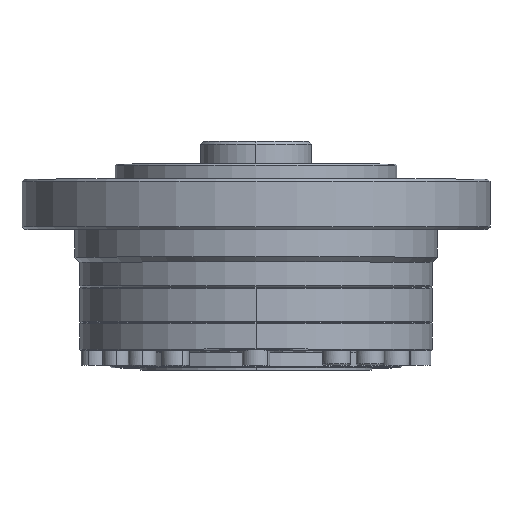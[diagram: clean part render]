
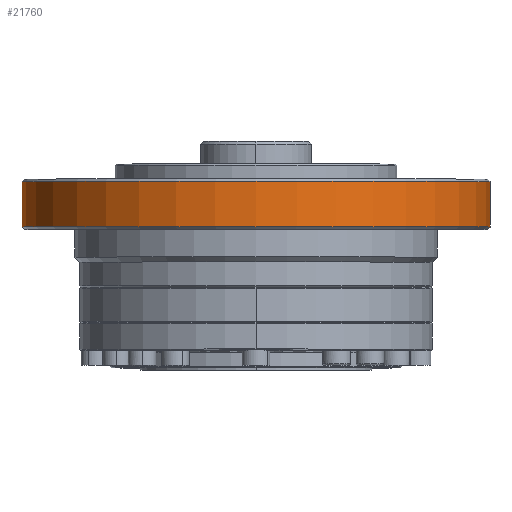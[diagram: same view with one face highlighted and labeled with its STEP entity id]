
A CAD part, top view. The second image highlights one B-rep face of the part: STEP entity #21760.
In plain terms, the highlighted cylindrical face has radius 46.5 mm (diameter 93 mm), a partial arc.
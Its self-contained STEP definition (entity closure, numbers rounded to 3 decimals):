
#17063=CARTESIAN_POINT('',(0.,12.,0.));
#17064=DIRECTION('',(0.,-1.,0.));
#17065=DIRECTION('',(1.,0.,0.));
#17066=AXIS2_PLACEMENT_3D('',#17063,#17064,#17065);
#17071=DIRECTION('',(0.,1.,0.));
#17072=VECTOR('',#17071,9.);
#17073=CARTESIAN_POINT('',(46.5,12.,0.));
#17074=LINE('',#17073,#17072);
#17078=DIRECTION('',(0.,1.,0.));
#17079=VECTOR('',#17078,9.);
#17080=CARTESIAN_POINT('',(-46.5,12.,0.));
#17081=LINE('',#17080,#17079);
#17129=CARTESIAN_POINT('',(0.,21.,0.));
#17130=DIRECTION('',(0.,1.,0.));
#17131=DIRECTION('',(-1.,0.,0.));
#17132=AXIS2_PLACEMENT_3D('',#17129,#17130,#17131);
#20667=CARTESIAN_POINT('',(-46.5,12.,0.));
#20668=CARTESIAN_POINT('',(-46.5,21.,0.));
#20669=VERTEX_POINT('',#20667);
#20670=VERTEX_POINT('',#20668);
#20671=CARTESIAN_POINT('',(46.5,12.,0.));
#20672=CARTESIAN_POINT('',(46.5,21.,0.));
#20673=VERTEX_POINT('',#20671);
#20674=VERTEX_POINT('',#20672);
#21746=CARTESIAN_POINT('',(0.,-105.867,0.));
#21747=DIRECTION('',(0.,1.,0.));
#21748=DIRECTION('',(-1.,0.,0.));
#21749=AXIS2_PLACEMENT_3D('',#21746,#21747,#21748);
#21750=CYLINDRICAL_SURFACE('',#21749,46.5);
#21751=ORIENTED_EDGE('',*,*,#21736,.T.);
#21753=ORIENTED_EDGE('',*,*,#21752,.T.);
#21755=ORIENTED_EDGE('',*,*,#21754,.T.);
#21757=ORIENTED_EDGE('',*,*,#21756,.F.);
#21758=EDGE_LOOP('',(#21751,#21753,#21755,#21757));
#21759=FACE_OUTER_BOUND('',#21758,.F.);
#17067=CIRCLE('',#17066,46.5);
#17133=CIRCLE('',#17132,46.5);
#21736=EDGE_CURVE('',#20673,#20669,#17067,.T.);
#21752=EDGE_CURVE('',#20669,#20670,#17081,.T.);
#21754=EDGE_CURVE('',#20670,#20674,#17133,.T.);
#21756=EDGE_CURVE('',#20673,#20674,#17074,.T.);
#21760=ADVANCED_FACE('',(#21759),#21750,.T.);
